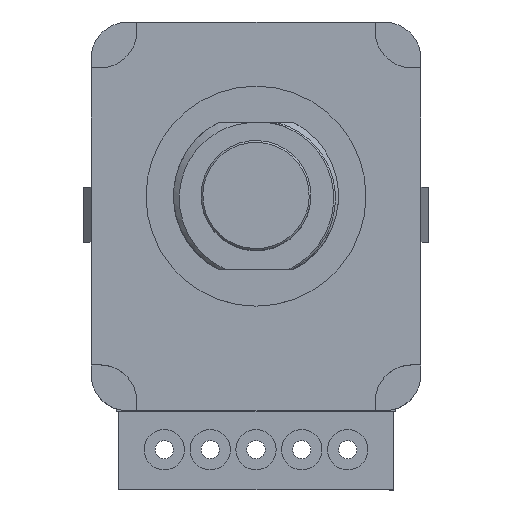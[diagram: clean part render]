
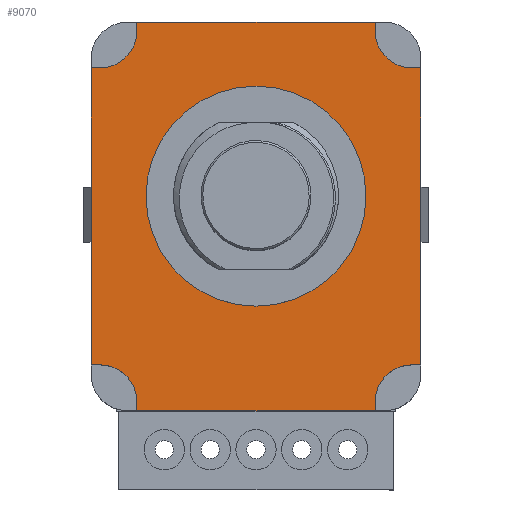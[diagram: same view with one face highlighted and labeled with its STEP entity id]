
A CAD part, top view. The second image highlights one B-rep face of the part: STEP entity #9070.
In plain terms, the highlighted planar face has unit normal (0, 0, 1).
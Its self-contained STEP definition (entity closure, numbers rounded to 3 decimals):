
#112 = LINE ( 'NONE', #3544, #27166 ) ;
#316 = CARTESIAN_POINT ( 'NONE',  ( 8.5, 7., 8. ) ) ;
#419 = AXIS2_PLACEMENT_3D ( 'NONE', #19509, #6841, #14273 ) ;
#703 = VERTEX_POINT ( 'NONE', #14943 ) ;
#759 = DIRECTION ( 'NONE',  ( 0., 1., 0. ) ) ;
#943 = CARTESIAN_POINT ( 'NONE',  ( -8.5, -9.2, 8. ) ) ;
#1044 = VERTEX_POINT ( 'NONE', #18849 ) ;
#1297 = ORIENTED_EDGE ( 'NONE', *, *, #11367, .F. ) ;
#1515 = EDGE_CURVE ( 'NONE', #2148, #11316, #12242, .T. ) ;
#1560 = VECTOR ( 'NONE', #759, 1000. ) ;
#1618 = VECTOR ( 'NONE', #25275, 1000. ) ;
#1673 = VERTEX_POINT ( 'NONE', #16050 ) ;
#1863 = EDGE_CURVE ( 'NONE', #9888, #1673, #18865, .T. ) ;
#2148 = VERTEX_POINT ( 'NONE', #7164 ) ;
#2301 = EDGE_CURVE ( 'NONE', #13886, #2148, #2749, .T. ) ;
#2435 = VECTOR ( 'NONE', #10658, 1000. ) ;
#2749 = LINE ( 'NONE', #10669, #28590 ) ;
#2952 = VERTEX_POINT ( 'NONE', #25513 ) ;
#3528 = VECTOR ( 'NONE', #13648, 1000. ) ;
#3544 = CARTESIAN_POINT ( 'NONE',  ( 8.5, 7., 8. ) ) ;
#3592 = DIRECTION ( 'NONE',  ( -1., 0., 0. ) ) ;
#3802 = DIRECTION ( 'NONE',  ( 0., 1., 0. ) ) ;
#3836 = VERTEX_POINT ( 'NONE', #24172 ) ;
#3921 = EDGE_CURVE ( 'NONE', #20025, #19290, #9796, .T. ) ;
#4422 = ORIENTED_EDGE ( 'NONE', *, *, #6683, .T. ) ;
#4845 = ORIENTED_EDGE ( 'NONE', *, *, #20997, .F. ) ;
#4855 = FACE_BOUND ( 'NONE', #29063, .T. ) ;
#5354 = EDGE_CURVE ( 'NONE', #9976, #22885, #18656, .T. ) ;
#6575 = VECTOR ( 'NONE', #13122, 1000. ) ;
#6683 = EDGE_CURVE ( 'NONE', #13886, #703, #26415, .T. ) ;
#6723 = EDGE_CURVE ( 'NONE', #3836, #3836, #9191, .T. ) ;
#6820 = DIRECTION ( 'NONE',  ( -1., 0., 0. ) ) ;
#6841 = DIRECTION ( 'NONE',  ( 0., 0., 1. ) ) ;
#6846 = ORIENTED_EDGE ( 'NONE', *, *, #8368, .F. ) ;
#7164 = CARTESIAN_POINT ( 'NONE',  ( -8.5, 7., 8. ) ) ;
#8053 = CARTESIAN_POINT ( 'NONE',  ( 8.5, -9.2, 8. ) ) ;
#8368 = EDGE_CURVE ( 'NONE', #24319, #1044, #112, .T. ) ;
#8380 = DIRECTION ( 'NONE',  ( 1., 0., 0. ) ) ;
#8647 = CARTESIAN_POINT ( 'NONE',  ( -8.5, -9.2, 8. ) ) ;
#9035 = DIRECTION ( 'NONE',  ( 0., 0., 1. ) ) ;
#9070 = ADVANCED_FACE ( 'NONE', ( #21275, #4855 ), #17717, .T. ) ;
#9191 = CIRCLE ( 'NONE', #10034, 6. ) ;
#9546 = CARTESIAN_POINT ( 'NONE',  ( -9., 7., 8. ) ) ;
#9698 = LINE ( 'NONE', #15313, #6575 ) ;
#9716 = ORIENTED_EDGE ( 'NONE', *, *, #11776, .F. ) ;
#9796 = LINE ( 'NONE', #30741, #1560 ) ;
#9855 = AXIS2_PLACEMENT_3D ( 'NONE', #14059, #9035, #18990 ) ;
#9888 = VERTEX_POINT ( 'NONE', #14930 ) ;
#9976 = VERTEX_POINT ( 'NONE', #8053 ) ;
#10034 = AXIS2_PLACEMENT_3D ( 'NONE', #26823, #16964, #11828 ) ;
#10201 = CARTESIAN_POINT ( 'NONE',  ( -6.5, -11.2, 8. ) ) ;
#10658 = DIRECTION ( 'NONE',  ( 1., 0., 0. ) ) ;
#10669 = CARTESIAN_POINT ( 'NONE',  ( -9., 7., 8. ) ) ;
#11110 = ORIENTED_EDGE ( 'NONE', *, *, #1515, .F. ) ;
#11144 = VECTOR ( 'NONE', #21993, 1000. ) ;
#11301 = ORIENTED_EDGE ( 'NONE', *, *, #13957, .F. ) ;
#11316 = VERTEX_POINT ( 'NONE', #12909 ) ;
#11367 = EDGE_CURVE ( 'NONE', #22885, #2952, #30206, .T. ) ;
#11663 = AXIS2_PLACEMENT_3D ( 'NONE', #23294, #30488, #20533 ) ;
#11713 = ORIENTED_EDGE ( 'NONE', *, *, #19733, .T. ) ;
#11776 = EDGE_CURVE ( 'NONE', #27574, #703, #27460, .T. ) ;
#11802 = EDGE_CURVE ( 'NONE', #11316, #1673, #25514, .T. ) ;
#11828 = DIRECTION ( 'NONE',  ( 1., 0., 0. ) ) ;
#12172 = CARTESIAN_POINT ( 'NONE',  ( 8.5, -11.2, 8. ) ) ;
#12242 = CIRCLE ( 'NONE', #11663, 2. ) ;
#12467 = EDGE_LOOP ( 'NONE', ( #9716, #24455, #31405, #24819, #1297, #21996, #4845, #11713, #6846, #14536, #11301, #13419, #29948, #11110, #16914, #4422 ) ) ;
#12654 = CARTESIAN_POINT ( 'NONE',  ( 9., -9.2, 8. ) ) ;
#12909 = CARTESIAN_POINT ( 'NONE',  ( -6.5, 9., 8. ) ) ;
#13122 = DIRECTION ( 'NONE',  ( -1., 0., 0. ) ) ;
#13419 = ORIENTED_EDGE ( 'NONE', *, *, #1863, .T. ) ;
#13648 = DIRECTION ( 'NONE',  ( 0., 1., 0. ) ) ;
#13886 = VERTEX_POINT ( 'NONE', #9546 ) ;
#13957 = EDGE_CURVE ( 'NONE', #9888, #14421, #16400, .T. ) ;
#14059 = CARTESIAN_POINT ( 'NONE',  ( -8.5, -11.2, 8. ) ) ;
#14273 = DIRECTION ( 'NONE',  ( -1., 0., 0. ) ) ;
#14421 = VERTEX_POINT ( 'NONE', #31636 ) ;
#14536 = ORIENTED_EDGE ( 'NONE', *, *, #18933, .F. ) ;
#14930 = CARTESIAN_POINT ( 'NONE',  ( 6.5, 9.5, 8. ) ) ;
#14943 = CARTESIAN_POINT ( 'NONE',  ( -9., -9.2, 8. ) ) ;
#15313 = CARTESIAN_POINT ( 'NONE',  ( 8.5, -9.2, 8. ) ) ;
#16050 = CARTESIAN_POINT ( 'NONE',  ( -6.5, 9.5, 8. ) ) ;
#16400 = LINE ( 'NONE', #32088, #25805 ) ;
#16914 = ORIENTED_EDGE ( 'NONE', *, *, #2301, .F. ) ;
#16964 = DIRECTION ( 'NONE',  ( 0., 0., 1. ) ) ;
#17717 = PLANE ( 'NONE',  #27980 ) ;
#18067 = VECTOR ( 'NONE', #3802, 1000. ) ;
#18341 = CARTESIAN_POINT ( 'NONE',  ( -6.5, 9., 8. ) ) ;
#18656 = CIRCLE ( 'NONE', #27247, 2. ) ;
#18849 = CARTESIAN_POINT ( 'NONE',  ( 9., 7., 8. ) ) ;
#18865 = LINE ( 'NONE', #28742, #27903 ) ;
#18933 = EDGE_CURVE ( 'NONE', #14421, #24319, #21919, .T. ) ;
#18990 = DIRECTION ( 'NONE',  ( -1., 0., 0. ) ) ;
#19212 = VECTOR ( 'NONE', #3592, 1000. ) ;
#19290 = VERTEX_POINT ( 'NONE', #10201 ) ;
#19509 = CARTESIAN_POINT ( 'NONE',  ( 8.5, 9., 8. ) ) ;
#19733 = EDGE_CURVE ( 'NONE', #24774, #1044, #31290, .T. ) ;
#20025 = VERTEX_POINT ( 'NONE', #29486 ) ;
#20533 = DIRECTION ( 'NONE',  ( -1., 0., 0. ) ) ;
#20997 = EDGE_CURVE ( 'NONE', #24774, #9976, #9698, .T. ) ;
#21175 = CARTESIAN_POINT ( 'NONE',  ( 9., 9.5, 8. ) ) ;
#21245 = CARTESIAN_POINT ( 'NONE',  ( 6.5, -11.2, 8. ) ) ;
#21275 = FACE_OUTER_BOUND ( 'NONE', #12467, .T. ) ;
#21613 = EDGE_CURVE ( 'NONE', #19290, #27574, #24552, .T. ) ;
#21919 = CIRCLE ( 'NONE', #419, 2. ) ;
#21993 = DIRECTION ( 'NONE',  ( 0., -1., 0. ) ) ;
#21996 = ORIENTED_EDGE ( 'NONE', *, *, #5354, .F. ) ;
#22885 = VERTEX_POINT ( 'NONE', #21245 ) ;
#23294 = CARTESIAN_POINT ( 'NONE',  ( -8.5, 9., 8. ) ) ;
#23879 = ORIENTED_EDGE ( 'NONE', *, *, #6723, .F. ) ;
#24172 = CARTESIAN_POINT ( 'NONE',  ( 6., 0., 8. ) ) ;
#24319 = VERTEX_POINT ( 'NONE', #316 ) ;
#24455 = ORIENTED_EDGE ( 'NONE', *, *, #21613, .F. ) ;
#24552 = CIRCLE ( 'NONE', #9855, 2. ) ;
#24753 = DIRECTION ( 'NONE',  ( 0., -1., 0. ) ) ;
#24774 = VERTEX_POINT ( 'NONE', #12654 ) ;
#24819 = ORIENTED_EDGE ( 'NONE', *, *, #28914, .T. ) ;
#25156 = DIRECTION ( 'NONE',  ( 1., 0., 0. ) ) ;
#25275 = DIRECTION ( 'NONE',  ( 0., -1., 0. ) ) ;
#25513 = CARTESIAN_POINT ( 'NONE',  ( 6.5, -11.7, 8. ) ) ;
#25514 = LINE ( 'NONE', #18341, #18067 ) ;
#25717 = CARTESIAN_POINT ( 'NONE',  ( 6.5, -11.7, 8. ) ) ;
#25805 = VECTOR ( 'NONE', #24753, 1000. ) ;
#26168 = DIRECTION ( 'NONE',  ( 1., 0., 0. ) ) ;
#26415 = LINE ( 'NONE', #29328, #11144 ) ;
#26823 = CARTESIAN_POINT ( 'NONE',  ( 0., 0., 8. ) ) ;
#26948 = DIRECTION ( 'NONE',  ( 0., 0., 1. ) ) ;
#27166 = VECTOR ( 'NONE', #26168, 1000. ) ;
#27247 = AXIS2_PLACEMENT_3D ( 'NONE', #12172, #26948, #6820 ) ;
#27354 = CARTESIAN_POINT ( 'NONE',  ( -9., -11.7, 8. ) ) ;
#27460 = LINE ( 'NONE', #943, #19212 ) ;
#27574 = VERTEX_POINT ( 'NONE', #8647 ) ;
#27903 = VECTOR ( 'NONE', #31352, 1000. ) ;
#27980 = AXIS2_PLACEMENT_3D ( 'NONE', #27354, #29840, #25156 ) ;
#28174 = CARTESIAN_POINT ( 'NONE',  ( -9., -11.7, 8. ) ) ;
#28590 = VECTOR ( 'NONE', #8380, 1000. ) ;
#28742 = CARTESIAN_POINT ( 'NONE',  ( -9., 9.5, 8. ) ) ;
#28914 = EDGE_CURVE ( 'NONE', #20025, #2952, #29060, .T. ) ;
#29060 = LINE ( 'NONE', #28174, #2435 ) ;
#29063 = EDGE_LOOP ( 'NONE', ( #23879 ) ) ;
#29328 = CARTESIAN_POINT ( 'NONE',  ( -9., 9.5, 8. ) ) ;
#29486 = CARTESIAN_POINT ( 'NONE',  ( -6.5, -11.7, 8. ) ) ;
#29840 = DIRECTION ( 'NONE',  ( 0., 0., 1. ) ) ;
#29948 = ORIENTED_EDGE ( 'NONE', *, *, #11802, .F. ) ;
#30206 = LINE ( 'NONE', #25717, #1618 ) ;
#30488 = DIRECTION ( 'NONE',  ( 0., 0., 1. ) ) ;
#30741 = CARTESIAN_POINT ( 'NONE',  ( -6.5, -11.7, 8. ) ) ;
#31290 = LINE ( 'NONE', #21175, #3528 ) ;
#31352 = DIRECTION ( 'NONE',  ( -1., 0., 0. ) ) ;
#31405 = ORIENTED_EDGE ( 'NONE', *, *, #3921, .F. ) ;
#31636 = CARTESIAN_POINT ( 'NONE',  ( 6.5, 9., 8. ) ) ;
#32088 = CARTESIAN_POINT ( 'NONE',  ( 6.5, 9.5, 8. ) ) ;
